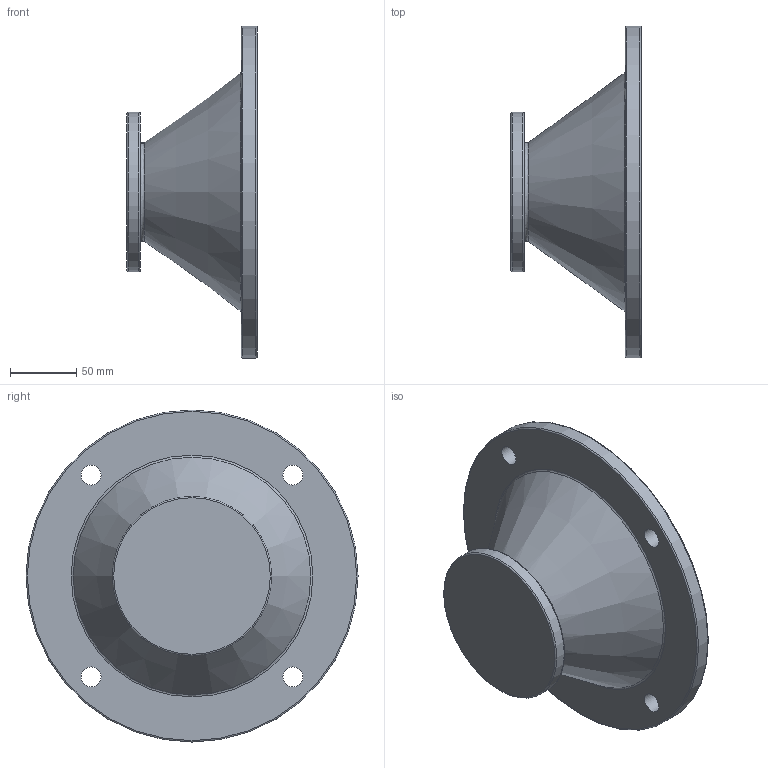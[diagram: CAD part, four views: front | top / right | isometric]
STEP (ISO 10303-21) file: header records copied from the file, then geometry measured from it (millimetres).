
FILE_DESCRIPTION((''),'2;1');
FILE_NAME('D:\PAWEŁ\ZLECENIA\DualSystem\001 Modele\DKAB30_\DK_30_STEP\100_B5_L98.stp','2011-11-27T11:36:21',('Pawe'),(''),'Autodesk Inventor 2009','Autodesk Inventor 2009','');
FILE_SCHEMA(('AUTOMOTIVE_DESIGN { 1 0 10303 214 1 1 1 1 }'));
Length unit declared in the file: millimetre
Products named in the file (1): 100_B5_L98
Bounding box: 98 x 250 x 250 mm (x, y, z)
Volume: 686956.7 mm3; surface area: 172490.5 mm2
Topology: 1 solids, 1 shells, 29 faces, 56 edges, 35 vertices
Faces by surface type: plane 11, bspline 6, cylinder 5, torus 5, cone 2
Full cylindrical faces by diameter (mm): 48 x1, 120 x1, 180 x1, 250 x1
Entity records: 875 total; most frequent: CARTESIAN_POINT 278, DIRECTION 116, ORIENTED_EDGE 78, EDGE_LOOP 60, AXIS2_PLACEMENT_3D 53, EDGE_CURVE 39, VERTEX_POINT 35, FACE_BOUND 31
